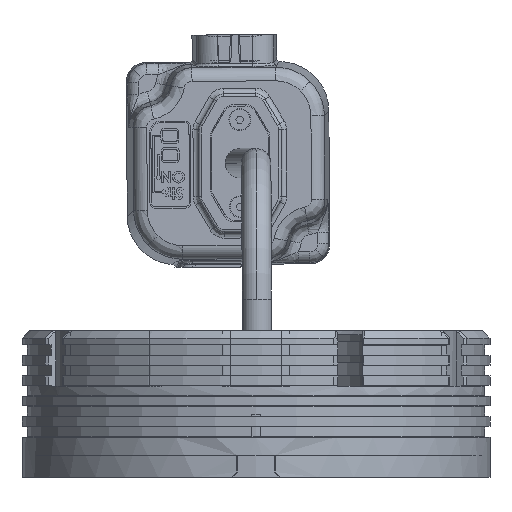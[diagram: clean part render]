
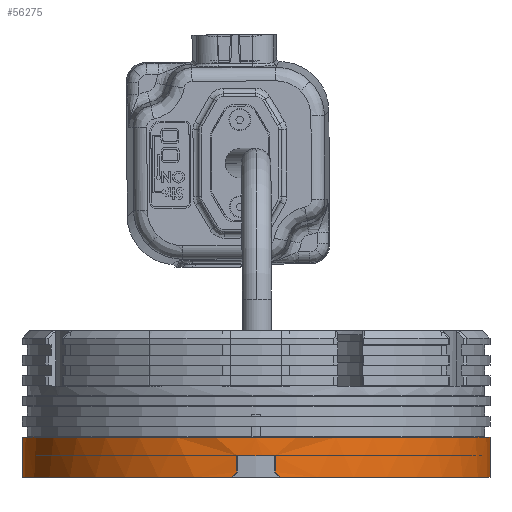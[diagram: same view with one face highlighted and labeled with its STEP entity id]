
A CAD part, front view. The second image highlights one B-rep face of the part: STEP entity #56275.
In plain terms, the highlighted cylindrical face has radius 43 mm (diameter 86 mm), a partial arc.
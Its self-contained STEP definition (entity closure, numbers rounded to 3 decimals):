
#877 = EDGE_CURVE ( 'NONE', #39625, #15889, #21902, .T. ) ;
#1110 = VERTEX_POINT ( 'NONE', #20034 ) ;
#2091 = CARTESIAN_POINT ( 'NONE',  ( 43., 0., 7.4 ) ) ;
#2340 = CARTESIAN_POINT ( 'NONE',  ( 0., 0., 27. ) ) ;
#3463 = AXIS2_PLACEMENT_3D ( 'NONE', #6956, #17087, #44142 ) ;
#3727 = ORIENTED_EDGE ( 'NONE', *, *, #24514, .T. ) ;
#5699 = CARTESIAN_POINT ( 'NONE',  ( -3.5, -42.857, 1. ) ) ;
#6869 = ORIENTED_EDGE ( 'NONE', *, *, #877, .T. ) ;
#6956 = CARTESIAN_POINT ( 'NONE',  ( 0., 0., 4. ) ) ;
#7226 = ORIENTED_EDGE ( 'NONE', *, *, #40494, .T. ) ;
#7419 = CARTESIAN_POINT ( 'NONE',  ( -3.832, -42.83, 0.667 ) ) ;
#8583 = CIRCLE ( 'NONE', #9680, 43. ) ;
#9392 = DIRECTION ( 'NONE',  ( 0., 0., 1. ) ) ;
#9680 = AXIS2_PLACEMENT_3D ( 'NONE', #51977, #13565, #32290 ) ;
#12213 = VECTOR ( 'NONE', #19197, 1000. ) ;
#12426 = CARTESIAN_POINT ( 'NONE',  ( 4.164, -42.799, 0.333 ) ) ;
#13313 = DIRECTION ( 'NONE',  ( 0., 0., -1. ) ) ;
#13565 = DIRECTION ( 'NONE',  ( 0., 0., 1. ) ) ;
#13581 = CARTESIAN_POINT ( 'NONE',  ( 43., 0., 27. ) ) ;
#13631 = CIRCLE ( 'NONE', #50931, 43. ) ;
#14228 = DIRECTION ( 'NONE',  ( 1., 0., 0. ) ) ;
#14344 = AXIS2_PLACEMENT_3D ( 'NONE', #42885, #9392, #47171 ) ;
#14725 = VERTEX_POINT ( 'NONE', #27553 ) ;
#14815 = VERTEX_POINT ( 'NONE', #5699 ) ;
#14897 = LINE ( 'NONE', #24426, #12213 ) ;
#15624 = ORIENTED_EDGE ( 'NONE', *, *, #40769, .F. ) ;
#15778 = EDGE_CURVE ( 'NONE', #21682, #14725, #55693, .T. ) ;
#15889 = VERTEX_POINT ( 'NONE', #36509 ) ;
#16349 = DIRECTION ( 'NONE',  ( 0., 0., -1. ) ) ;
#16927 = CARTESIAN_POINT ( 'NONE',  ( -4.496, -42.764, 0. ) ) ;
#16954 = EDGE_CURVE ( 'NONE', #27788, #47513, #20856, .T. ) ;
#17087 = DIRECTION ( 'NONE',  ( 0., 0., -1. ) ) ;
#17965 = VERTEX_POINT ( 'NONE', #49319 ) ;
#19021 = VECTOR ( 'NONE', #16349, 1000. ) ;
#19197 = DIRECTION ( 'NONE',  ( 0., 0., -1. ) ) ;
#19448 = DIRECTION ( 'NONE',  ( 0., 0., 1. ) ) ;
#20034 = CARTESIAN_POINT ( 'NONE',  ( -3.5, -42.857, 4. ) ) ;
#20856 =( BOUNDED_CURVE ( )  B_SPLINE_CURVE ( 3, ( #39485, #40390, #12426, #49306 ),
 .UNSPECIFIED., .F., .T. ) 
 B_SPLINE_CURVE_WITH_KNOTS ( ( 4, 4 ),
 ( 4.712, 4.736 ),
 .UNSPECIFIED. ) 
 CURVE ( )  GEOMETRIC_REPRESENTATION_ITEM ( )  RATIONAL_B_SPLINE_CURVE ( ( 1., 1., 1., 1. ) ) 
 REPRESENTATION_ITEM ( '' )  );
#21682 = VERTEX_POINT ( 'NONE', #2091 ) ;
#21902 = LINE ( 'NONE', #22515, #56947 ) ;
#22341 = CYLINDRICAL_SURFACE ( 'NONE', #40937, 43. ) ;
#22515 = CARTESIAN_POINT ( 'NONE',  ( -43., 0., 27. ) ) ;
#24426 = CARTESIAN_POINT ( 'NONE',  ( -3.5, -42.857, 4. ) ) ;
#24514 = EDGE_CURVE ( 'NONE', #40600, #14815, #56562, .T. ) ;
#26947 = DIRECTION ( 'NONE',  ( -1., 0., 0. ) ) ;
#27553 = CARTESIAN_POINT ( 'NONE',  ( 43., 0., 0. ) ) ;
#27700 = DIRECTION ( 'NONE',  ( 0., 0., -1. ) ) ;
#27788 = VERTEX_POINT ( 'NONE', #46606 ) ;
#30490 = LINE ( 'NONE', #58170, #19021 ) ;
#30589 = EDGE_CURVE ( 'NONE', #1110, #14815, #14897, .T. ) ;
#30967 = CIRCLE ( 'NONE', #3463, 43. ) ;
#32290 = DIRECTION ( 'NONE',  ( 1., 0., 0. ) ) ;
#35076 = CARTESIAN_POINT ( 'NONE',  ( -4.496, -42.764, 0. ) ) ;
#36012 = ORIENTED_EDGE ( 'NONE', *, *, #45422, .T. ) ;
#36509 = CARTESIAN_POINT ( 'NONE',  ( -43., 0., 0. ) ) ;
#37525 = EDGE_CURVE ( 'NONE', #15889, #40600, #40844, .T. ) ;
#38226 = ORIENTED_EDGE ( 'NONE', *, *, #15778, .F. ) ;
#39485 = CARTESIAN_POINT ( 'NONE',  ( 3.5, -42.857, 1. ) ) ;
#39625 = VERTEX_POINT ( 'NONE', #51106 ) ;
#40390 = CARTESIAN_POINT ( 'NONE',  ( 3.832, -42.83, 0.667 ) ) ;
#40494 = EDGE_CURVE ( 'NONE', #47513, #14725, #13631, .T. ) ;
#40600 = VERTEX_POINT ( 'NONE', #16927 ) ;
#40769 = EDGE_CURVE ( 'NONE', #39625, #21682, #8583, .T. ) ;
#40844 = CIRCLE ( 'NONE', #14344, 43. ) ;
#40937 = AXIS2_PLACEMENT_3D ( 'NONE', #2340, #58325, #26947 ) ;
#42885 = CARTESIAN_POINT ( 'NONE',  ( 0., 0., 0. ) ) ;
#44142 = DIRECTION ( 'NONE',  ( -1., 0., 0. ) ) ;
#45422 = EDGE_CURVE ( 'NONE', #17965, #27788, #30490, .T. ) ;
#46606 = CARTESIAN_POINT ( 'NONE',  ( 3.5, -42.857, 1. ) ) ;
#47104 = CARTESIAN_POINT ( 'NONE',  ( 0., 0., 0. ) ) ;
#47171 = DIRECTION ( 'NONE',  ( 1., 0., 0. ) ) ;
#47513 = VERTEX_POINT ( 'NONE', #54490 ) ;
#48915 = ORIENTED_EDGE ( 'NONE', *, *, #30589, .F. ) ;
#49306 = CARTESIAN_POINT ( 'NONE',  ( 4.496, -42.764, 0. ) ) ;
#49319 = CARTESIAN_POINT ( 'NONE',  ( 3.5, -42.857, 4. ) ) ;
#50931 = AXIS2_PLACEMENT_3D ( 'NONE', #47104, #19448, #14228 ) ;
#51106 = CARTESIAN_POINT ( 'NONE',  ( -43., 0., 7.4 ) ) ;
#51977 = CARTESIAN_POINT ( 'NONE',  ( 0., 0., 7.4 ) ) ;
#54316 = EDGE_CURVE ( 'NONE', #17965, #1110, #30967, .T. ) ;
#54490 = CARTESIAN_POINT ( 'NONE',  ( 4.496, -42.764, 0. ) ) ;
#54972 = ORIENTED_EDGE ( 'NONE', *, *, #37525, .T. ) ;
#55163 = EDGE_LOOP ( 'NONE', ( #38226, #15624, #6869, #54972, #3727, #48915, #58961, #36012, #57020, #7226 ) ) ;
#55693 = LINE ( 'NONE', #13581, #57134 ) ;
#56275 = ADVANCED_FACE ( 'NONE', ( #59559 ), #22341, .T. ) ;
#56562 =( BOUNDED_CURVE ( )  B_SPLINE_CURVE ( 3, ( #35076, #59065, #7419, #58458 ),
 .UNSPECIFIED., .F., .T. ) 
 B_SPLINE_CURVE_WITH_KNOTS ( ( 4, 4 ),
 ( 1.548, 1.571 ),
 .UNSPECIFIED. ) 
 CURVE ( )  GEOMETRIC_REPRESENTATION_ITEM ( )  RATIONAL_B_SPLINE_CURVE ( ( 1., 1., 1., 1. ) ) 
 REPRESENTATION_ITEM ( '' )  );
#56947 = VECTOR ( 'NONE', #13313, 1000. ) ;
#57020 = ORIENTED_EDGE ( 'NONE', *, *, #16954, .T. ) ;
#57134 = VECTOR ( 'NONE', #27700, 1000. ) ;
#58170 = CARTESIAN_POINT ( 'NONE',  ( 3.5, -42.857, 4. ) ) ;
#58325 = DIRECTION ( 'NONE',  ( 0., 0., -1. ) ) ;
#58458 = CARTESIAN_POINT ( 'NONE',  ( -3.5, -42.857, 1. ) ) ;
#58961 = ORIENTED_EDGE ( 'NONE', *, *, #54316, .F. ) ;
#59065 = CARTESIAN_POINT ( 'NONE',  ( -4.164, -42.799, 0.333 ) ) ;
#59559 = FACE_OUTER_BOUND ( 'NONE', #55163, .T. ) ;
